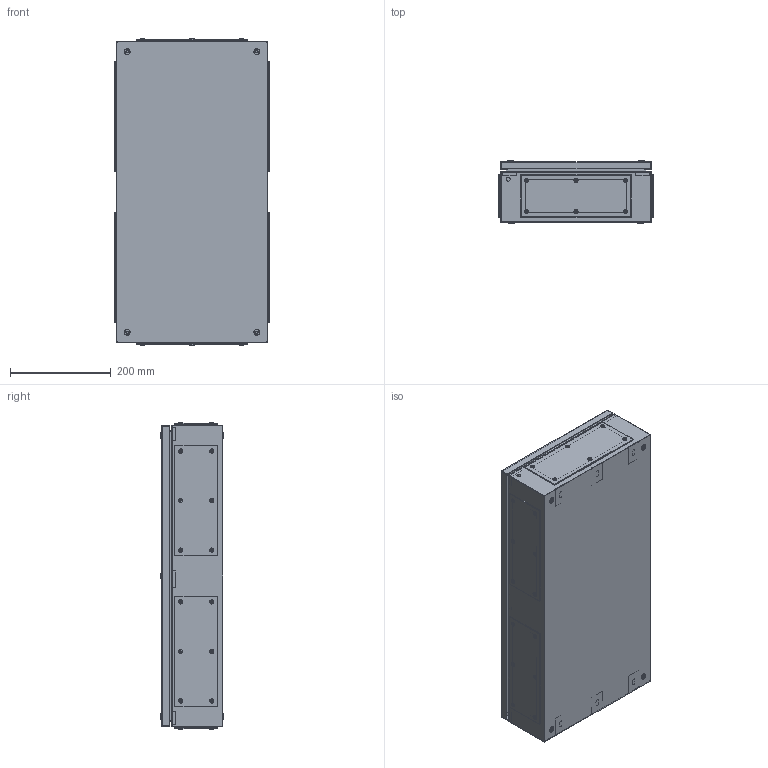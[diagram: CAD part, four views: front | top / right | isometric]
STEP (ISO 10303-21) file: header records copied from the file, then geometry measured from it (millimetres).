
FILE_DESCRIPTION(('Open CASCADE Model'),'2;1');
FILE_NAME('Open CASCADE Shape Model','2025-11-18T11:06:00',('Author'),( 'Open CASCADE'),'Open CASCADE STEP processor 7.8','Open CASCADE 7.8' ,'Unknown');
FILE_SCHEMA(('AUTOMOTIVE_DESIGN { 1 0 10303 214 1 1 1 1 }'));
Length unit declared in the file: millimetre
Products named in the file (21): Compound1; Compound2; Compound3; Solid1; Solid2; Solid3; Solid4; Solid5; Solid6; Compound4; Compound5; Solid7; Solid8; Solid9; Compound6; Solid10; Solid11; Solid12; Solid13; Solid14; Solid15
Assembly tree (95 placements, depth 5):
  Compound1
    Compound2
      Compound3
        Solid1
        Solid2  x2
        Solid3  x2
        Solid4  x2
        Solid5
        Solid6  x2
      Compound4
        Compound5
          Solid7
          Solid5
        Solid8
      Solid9  x6
      Compound6  x6
        Solid10
        Solid11
      Solid12  x12
      Solid13  x6
      Solid14  x6
    Solid15  x4
    Solid12  x36
Bounding box: 309 x 123.79 x 609 mm (x, y, z)
Volume: 1103451.1 mm3; surface area: 1571362.4 mm2
Topology: 95 solids, 95 shells, 3125 faces, 8066 edges, 5165 vertices
Faces by surface type: plane 1972, cylinder 573, cone 440, torus 88, bspline 40, sphere 12
Full cylindrical faces by diameter (mm): 1.5 x4, 3.5 x36, 4 x70, 4.134 x6, 5 x10, 5.2 x6, 5.3 x6, 5.5 x6, 6 x2, 6.5 x4, 7.5 x8, 8 x11, 8.4 x48, 8.5 x6, 11.5 x4, 13.5 x6, 15.791 x6
Entity records: 24066 total; most frequent: CARTESIAN_POINT 6542, ORIENTED_EDGE 3594, DIRECTION 3389, EDGE_CURVE 1797, VERTEX_POINT 1193, AXIS2_PLACEMENT_3D 1167, LINE 1055, VECTOR 1055
